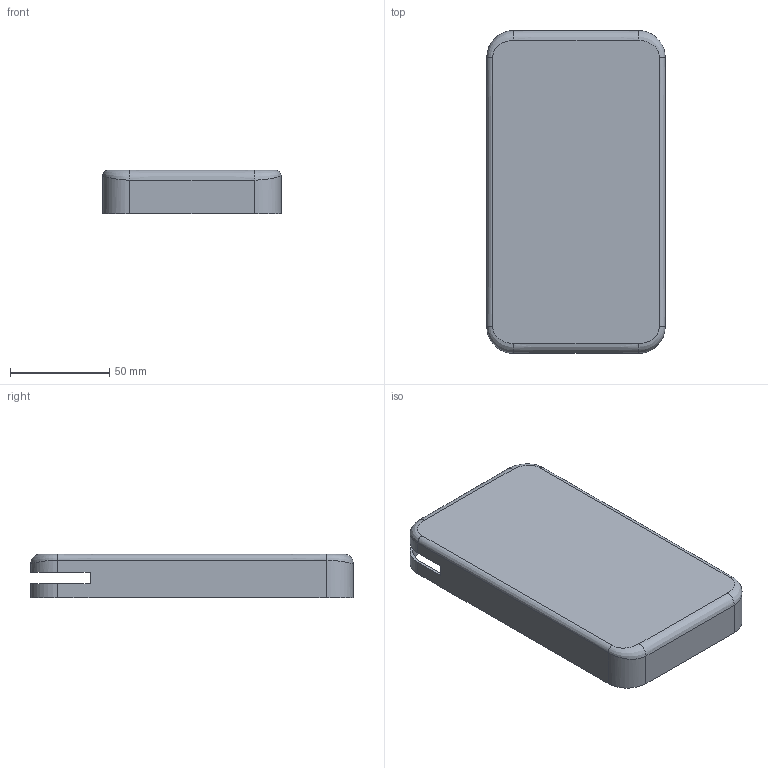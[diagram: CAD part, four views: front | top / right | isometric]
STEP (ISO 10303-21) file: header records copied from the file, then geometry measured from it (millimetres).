
FILE_DESCRIPTION (( 'STEP AP214' ), '1' );
FILE_NAME ('F053139668.STEP', '2017-11-21T07:16:19', ( '' ), ( '' ), 'SwSTEP 2.0', 'SolidWorks 2017', '' );
FILE_SCHEMA (( 'AUTOMOTIVE_DESIGN' ));
Length unit declared in the file: millimetre
Products named in the file (1): F053139668
Bounding box: 89.9 x 162.7 x 22.01 mm (x, y, z)
Volume: 33202.9 mm3; surface area: 46879.7 mm2
Topology: 1 solids, 1 shells, 68 faces, 178 edges, 112 vertices
Faces by surface type: plane 38, bspline 16, cylinder 12, sphere 2
Entity records: 3898 total; most frequent: CARTESIAN_POINT 2193, ORIENTED_EDGE 356, DIRECTION 264, EDGE_CURVE 178, VECTOR 118, LINE 118, VERTEX_POINT 112, AXIS2_PLACEMENT_3D 73
